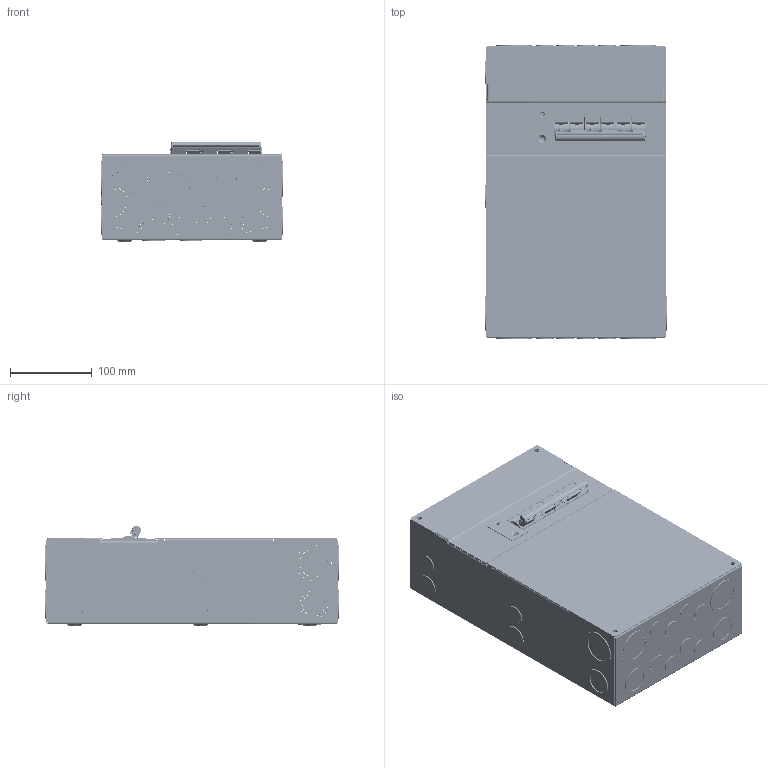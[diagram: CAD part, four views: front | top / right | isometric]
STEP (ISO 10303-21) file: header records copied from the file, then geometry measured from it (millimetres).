
FILE_DESCRIPTION(/* description */ ('Unknown'),/* implementation_level */ '2;1');
FILE_NAME(/* name */ 'GFPD600V_Public',/* time_stamp */ '2020-09-22T11:14:46-04:00',/* author */ ('Unknown'),/* organization */ ('Unknown'),/* preprocessor_version */ 'ST-DEVELOPER v16.7',/* originating_system */ 'Solid Edge',/* authorisation */ 'Unknown');
FILE_SCHEMA (('AUTOMOTIVE_DESIGN {1 0 10303 214 3 1 1}'));
Products named in the file (25): MS-ASM-00064; MS-001017_oa_0; MS-ZCASE-GFPD-01; MS-001020; Ring Terminal, 6 AWG, 0.25 in hole; MS-001019; MS-001072; MS-001021; MS-001023; CX3_STUD_AUX_LEFT_SW0001; MS-ASM-00062_oa_1; MS-000984; GFP-PCB_v1.5_oa_2; 2_POS_3_stack_5mm_custom_side_exit_stackable_14-25AWG_oa_3; 2_POS_5mm_custom_side_exit_stackable_14-25AWG_oa_4; 2_POS_5mm_custom_side_exit_stackable_14-25AWG_oa_5; 2_POS_5mm_custom_side_exit_stackable_14-25AWG_oa_6; MS-000985; GFP-toroid_0J44015TC; Screw - no4-20x0.75in_plastic_tapping_panhead; MS-000987; MS-001018; MS-001028; MS-000999_oa_7; MS-000999
Assembly tree (30 placements, depth 5):
  MS-ASM-00064
    MS-001017_oa_0
      MS-ZCASE-GFPD-01
    MS-001020
    Ring Terminal, 6 AWG, 0.25 in hole
    MS-001019
    MS-001072
    MS-001021
    MS-001023  x2
      CX3_STUD_AUX_LEFT_SW0001
    MS-ASM-00062_oa_1
      MS-000984
      GFP-PCB_v1.5_oa_2
        2_POS_3_stack_5mm_custom_side_exit_stackable_14-25AWG_oa_3
          2_POS_5mm_custom_side_exit_stackable_14-25AWG_oa_4
          2_POS_5mm_custom_side_exit_stackable_14-25AWG_oa_5
          2_POS_5mm_custom_side_exit_stackable_14-25AWG_oa_6
      MS-000985
      GFP-toroid_0J44015TC
      Screw - no4-20x0.75in_plastic_tapping_panhead  x6
      MS-000987
    MS-001018
    MS-001028
    MS-000999_oa_7
      MS-000999
Bounding box: 223.51 x 359.38 x 123.4 mm (x, y, z)
Volume: 695317.4 mm3; surface area: 994931.2 mm2
Topology: 49 solids, 50 shells, 21887 faces, 58721 edges, 36661 vertices
Faces by surface type: plane 11521, cylinder 6819, bspline 1308, sphere 1126, cone 677, torus 436
Full cylindrical faces by diameter (mm): 1.575 x6, 1.6 x12, 1.626 x18, 1.651 x16, 2.21 x16, 2.388 x6, 2.413 x10, 2.438 x4, 2.692 x12, 2.769 x4, 3.15 x6, 3.175 x3, 3.2 x6, 3.226 x6, 3.277 x4, 3.81 x16, 3.988 x1, 4.699 x28, 4.775 x2, 4.826 x16, 4.851 x4, 5 x2, 5.08 x3, 5.105 x1, 5.182 x40, 5.207 x4, 5.334 x6, 5.367 x5, 5.512 x5, 5.537 x12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
Entity records: 394095 total; most frequent: CARTESIAN_POINT 95781, ORIENTED_EDGE 63042, DIRECTION 61295, EDGE_CURVE 31521, AXIS2_PLACEMENT_3D 20792, VERTEX_POINT 19964, LINE 19711, VECTOR 19711
